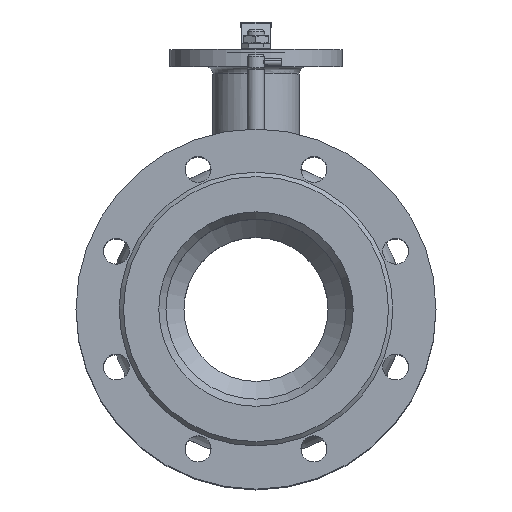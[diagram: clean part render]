
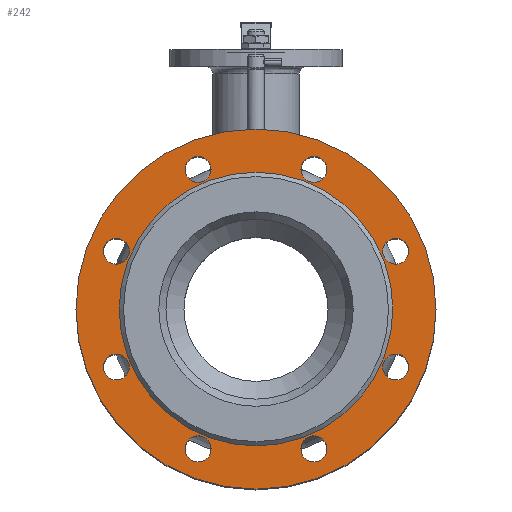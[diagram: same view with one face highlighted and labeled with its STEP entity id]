
A CAD part, top view. The second image highlights one B-rep face of the part: STEP entity #242.
In plain terms, the highlighted planar face has unit normal (0, 0, 1).
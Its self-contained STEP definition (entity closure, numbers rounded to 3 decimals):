
#242=ADVANCED_FACE('',(#2288,#2290,#2292,#2294,#2296,#2298,#2300,#2302,#2304,#2306),
#2308,.F.);
#2288=FACE_BOUND('',#2289,.T.);
#2289=EDGE_LOOP('',(#28703));
#2290=FACE_BOUND('',#2291,.T.);
#2291=EDGE_LOOP('',(#28704));
#2292=FACE_BOUND('',#2293,.T.);
#2293=EDGE_LOOP('',(#28705));
#2294=FACE_BOUND('',#2295,.T.);
#2295=EDGE_LOOP('',(#28706));
#2296=FACE_BOUND('',#2297,.T.);
#2297=EDGE_LOOP('',(#28707));
#2298=FACE_BOUND('',#2299,.T.);
#2299=EDGE_LOOP('',(#28708));
#2300=FACE_BOUND('',#2301,.T.);
#2301=EDGE_LOOP('',(#28709));
#2302=FACE_BOUND('',#2303,.T.);
#2303=EDGE_LOOP('',(#28710));
#2304=FACE_BOUND('',#2305,.T.);
#2305=EDGE_LOOP('',(#28711));
#2306=FACE_BOUND('',#2307,.T.);
#2307=EDGE_LOOP('',(#28712));
#2308=PLANE('',#2309);
#2309=AXIS2_PLACEMENT_3D('',#2310,#2311,#2312);
#2310=CARTESIAN_POINT('',(0.,95.,168.));
#2311=DIRECTION('',(0.,0.,-1.));
#2312=DIRECTION('',(-1.,0.,0.));
#28703=ORIENTED_EDGE('',*,*,#33680,.T.);
#28704=ORIENTED_EDGE('',*,*,#33681,.F.);
#28705=ORIENTED_EDGE('',*,*,#33682,.F.);
#28706=ORIENTED_EDGE('',*,*,#33683,.F.);
#28707=ORIENTED_EDGE('',*,*,#33684,.F.);
#28708=ORIENTED_EDGE('',*,*,#33685,.F.);
#28709=ORIENTED_EDGE('',*,*,#33686,.F.);
#28710=ORIENTED_EDGE('',*,*,#33687,.F.);
#28711=ORIENTED_EDGE('',*,*,#33688,.F.);
#28712=ORIENTED_EDGE('',*,*,#33626,.F.);
#33626=EDGE_CURVE('',#35908,#35908,#35909,.T.);
#33680=EDGE_CURVE('',#36016,#36016,#36017,.T.);
#33681=EDGE_CURVE('',#36018,#36018,#36019,.T.);
#33682=EDGE_CURVE('',#36020,#36020,#36021,.T.);
#33683=EDGE_CURVE('',#36022,#36022,#36023,.T.);
#33684=EDGE_CURVE('',#36024,#36024,#36025,.T.);
#33685=EDGE_CURVE('',#36026,#36026,#36027,.T.);
#33686=EDGE_CURVE('',#36028,#36028,#36029,.T.);
#33687=EDGE_CURVE('',#36030,#36030,#36031,.T.);
#33688=EDGE_CURVE('',#36032,#36032,#36033,.T.);
#35908=VERTEX_POINT('',#52647);
#35909=CIRCLE('',#52648,95.);
#36016=VERTEX_POINT('',#52917);
#36017=CIRCLE('',#52918,125.);
#36018=VERTEX_POINT('',#52922);
#36019=CIRCLE('',#52923,9.);
#36020=VERTEX_POINT('',#52927);
#36021=CIRCLE('',#52928,9.);
#36022=VERTEX_POINT('',#52932);
#36023=CIRCLE('',#52933,9.);
#36024=VERTEX_POINT('',#52937);
#36025=CIRCLE('',#52938,9.);
#36026=VERTEX_POINT('',#52942);
#36027=CIRCLE('',#52943,9.);
#36028=VERTEX_POINT('',#52947);
#36029=CIRCLE('',#52948,9.);
#36030=VERTEX_POINT('',#52952);
#36031=CIRCLE('',#52953,9.);
#36032=VERTEX_POINT('',#52957);
#36033=CIRCLE('',#52958,9.);
#52647=CARTESIAN_POINT('',(95.,0.,168.));
#52648=AXIS2_PLACEMENT_3D('',#52649,#52650,#52651);
#52649=CARTESIAN_POINT('',(0.,0.,168.));
#52650=DIRECTION('',(0.,0.,1.));
#52651=DIRECTION('',(1.,0.,0.));
#52917=CARTESIAN_POINT('',(125.,0.,168.));
#52918=AXIS2_PLACEMENT_3D('',#52919,#52920,#52921);
#52919=CARTESIAN_POINT('',(0.,0.,168.));
#52920=DIRECTION('',(0.,0.,1.));
#52921=DIRECTION('',(1.,0.,0.));
#52922=CARTESIAN_POINT('',(88.007,40.182,168.));
#52923=AXIS2_PLACEMENT_3D('',#52924,#52925,#52926);
#52924=CARTESIAN_POINT('',(97.007,40.182,168.));
#52925=DIRECTION('',(0.,0.,1.));
#52926=DIRECTION('',(-1.,0.,0.));
#52927=CARTESIAN_POINT('',(88.007,-40.182,168.));
#52928=AXIS2_PLACEMENT_3D('',#52929,#52930,#52931);
#52929=CARTESIAN_POINT('',(97.007,-40.182,168.));
#52930=DIRECTION('',(0.,0.,1.));
#52931=DIRECTION('',(-1.,0.,0.));
#52932=CARTESIAN_POINT('',(31.182,-97.007,168.));
#52933=AXIS2_PLACEMENT_3D('',#52934,#52935,#52936);
#52934=CARTESIAN_POINT('',(40.182,-97.007,168.));
#52935=DIRECTION('',(0.,0.,1.));
#52936=DIRECTION('',(-1.,0.,0.));
#52937=CARTESIAN_POINT('',(-49.182,-97.007,168.));
#52938=AXIS2_PLACEMENT_3D('',#52939,#52940,#52941);
#52939=CARTESIAN_POINT('',(-40.182,-97.007,168.));
#52940=DIRECTION('',(0.,0.,1.));
#52941=DIRECTION('',(-1.,0.,0.));
#52942=CARTESIAN_POINT('',(-106.007,-40.182,168.));
#52943=AXIS2_PLACEMENT_3D('',#52944,#52945,#52946);
#52944=CARTESIAN_POINT('',(-97.007,-40.182,168.));
#52945=DIRECTION('',(0.,0.,1.));
#52946=DIRECTION('',(-1.,0.,0.));
#52947=CARTESIAN_POINT('',(-106.007,40.182,168.));
#52948=AXIS2_PLACEMENT_3D('',#52949,#52950,#52951);
#52949=CARTESIAN_POINT('',(-97.007,40.182,168.));
#52950=DIRECTION('',(0.,0.,1.));
#52951=DIRECTION('',(-1.,0.,0.));
#52952=CARTESIAN_POINT('',(-49.182,97.007,168.));
#52953=AXIS2_PLACEMENT_3D('',#52954,#52955,#52956);
#52954=CARTESIAN_POINT('',(-40.182,97.007,168.));
#52955=DIRECTION('',(0.,0.,1.));
#52956=DIRECTION('',(-1.,0.,0.));
#52957=CARTESIAN_POINT('',(31.182,97.007,168.));
#52958=AXIS2_PLACEMENT_3D('',#52959,#52960,#52961);
#52959=CARTESIAN_POINT('',(40.182,97.007,168.));
#52960=DIRECTION('',(0.,0.,1.));
#52961=DIRECTION('',(-1.,0.,0.));
